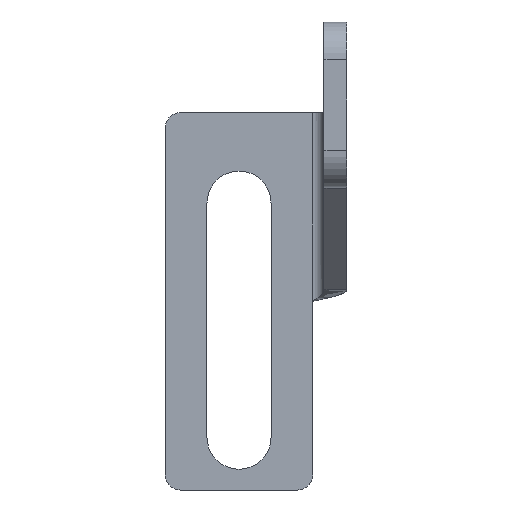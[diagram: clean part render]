
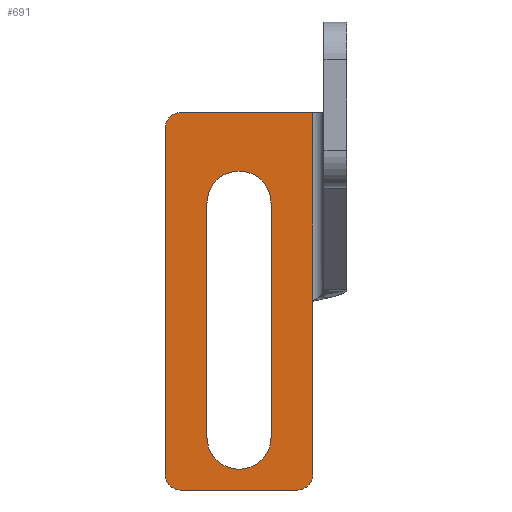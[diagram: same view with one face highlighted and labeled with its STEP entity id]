
A CAD part, left-side view. The second image highlights one B-rep face of the part: STEP entity #691.
In plain terms, the highlighted planar face has unit normal (-1, 0, 0).
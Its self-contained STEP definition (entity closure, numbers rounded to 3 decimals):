
#221 = DIRECTION ( 'NONE',  ( 0., 1., 0. ) ) ;
#230 = CIRCLE ( 'NONE', #235, 4.25 ) ;
#231 = VECTOR ( 'NONE', #237, 1000. ) ;
#232 = DIRECTION ( 'NONE',  ( 0., 1., 0. ) ) ;
#233 = DIRECTION ( 'NONE',  ( 1., 0., 0. ) ) ;
#234 = CARTESIAN_POINT ( 'NONE',  ( -25.75, 14.25, -55. ) ) ;
#235 = AXIS2_PLACEMENT_3D ( 'NONE', #234, #233, #232 ) ;
#237 = DIRECTION ( 'NONE',  ( 0., 1., 0. ) ) ;
#263 = CARTESIAN_POINT ( 'NONE',  ( -25.75, 4.5, -37. ) ) ;
#279 = CARTESIAN_POINT ( 'NONE',  ( -25.75, 24., -12. ) ) ;
#280 = LINE ( 'NONE', #279, #231 ) ;
#389 = DIRECTION ( 'NONE',  ( 0., 1., 0. ) ) ;
#390 = VECTOR ( 'NONE', #389, 1000. ) ;
#391 = CARTESIAN_POINT ( 'NONE',  ( -25.75, 4.5, -62. ) ) ;
#392 = LINE ( 'NONE', #391, #390 ) ;
#402 = CARTESIAN_POINT ( 'NONE',  ( -25.75, 22., -62. ) ) ;
#495 = LINE ( 'NONE', #515, #514 ) ;
#514 = VECTOR ( 'NONE', #524, 1000. ) ;
#515 = CARTESIAN_POINT ( 'NONE',  ( -25.75, 4.5, -12. ) ) ;
#517 = CARTESIAN_POINT ( 'NONE',  ( -25.75, 22., -12. ) ) ;
#524 = DIRECTION ( 'NONE',  ( 0., 0., -1. ) ) ;
#526 = PLANE ( 'NONE',  #530 ) ;
#527 = DIRECTION ( 'NONE',  ( 1., 0., 0. ) ) ;
#528 = CARTESIAN_POINT ( 'NONE',  ( -25.75, 3., -37. ) ) ;
#530 = AXIS2_PLACEMENT_3D ( 'NONE', #528, #527, #221 ) ;
#532 = FACE_BOUND ( 'NONE', #787, .T. ) ;
#535 = CARTESIAN_POINT ( 'NONE',  ( -25.75, 18.5, -24. ) ) ;
#536 = FACE_OUTER_BOUND ( 'NONE', #904, .T. ) ;
#559 = VERTEX_POINT ( 'NONE', #263 ) ;
#568 = ORIENTED_EDGE ( 'NONE', *, *, #786, .T. ) ;
#569 = EDGE_CURVE ( 'NONE', #785, #813, #230, .T. ) ;
#571 = EDGE_CURVE ( 'NONE', #784, #578, #392, .T. ) ;
#578 = VERTEX_POINT ( 'NONE', #402 ) ;
#579 = EDGE_CURVE ( 'NONE', #709, #641, #280, .T. ) ;
#628 = EDGE_CURVE ( 'NONE', #709, #559, #495, .T. ) ;
#641 = VERTEX_POINT ( 'NONE', #517 ) ;
#650 = CARTESIAN_POINT ( 'NONE',  ( -25.75, 4.5, -12. ) ) ;
#691 = ADVANCED_FACE ( 'NONE', ( #532, #536 ), #526, .F. ) ;
#692 = VERTEX_POINT ( 'NONE', #535 ) ;
#709 = VERTEX_POINT ( 'NONE', #650 ) ;
#764 = ORIENTED_EDGE ( 'NONE', *, *, #808, .T. ) ;
#765 = VERTEX_POINT ( 'NONE', #1063 ) ;
#766 = EDGE_CURVE ( 'NONE', #813, #692, #1058, .T. ) ;
#784 = VERTEX_POINT ( 'NONE', #1087 ) ;
#785 = VERTEX_POINT ( 'NONE', #1086 ) ;
#786 = EDGE_CURVE ( 'NONE', #765, #785, #1081, .T. ) ;
#787 = EDGE_LOOP ( 'NONE', ( #789, #788, #568, #812 ) ) ;
#788 = ORIENTED_EDGE ( 'NONE', *, *, #811, .T. ) ;
#789 = ORIENTED_EDGE ( 'NONE', *, *, #766, .T. ) ;
#794 = ORIENTED_EDGE ( 'NONE', *, *, #628, .F. ) ;
#797 = EDGE_CURVE ( 'NONE', #641, #810, #1077, .T. ) ;
#798 = ORIENTED_EDGE ( 'NONE', *, *, #579, .T. ) ;
#799 = EDGE_CURVE ( 'NONE', #810, #804, #1125, .T. ) ;
#800 = EDGE_CURVE ( 'NONE', #804, #578, #1127, .T. ) ;
#801 = ORIENTED_EDGE ( 'NONE', *, *, #800, .T. ) ;
#802 = ORIENTED_EDGE ( 'NONE', *, *, #571, .F. ) ;
#803 = ORIENTED_EDGE ( 'NONE', *, *, #806, .T. ) ;
#804 = VERTEX_POINT ( 'NONE', #1126 ) ;
#805 = VERTEX_POINT ( 'NONE', #1121 ) ;
#806 = EDGE_CURVE ( 'NONE', #784, #805, #1116, .T. ) ;
#807 = ORIENTED_EDGE ( 'NONE', *, *, #797, .T. ) ;
#808 = EDGE_CURVE ( 'NONE', #805, #559, #1110, .T. ) ;
#809 = ORIENTED_EDGE ( 'NONE', *, *, #799, .T. ) ;
#810 = VERTEX_POINT ( 'NONE', #1111 ) ;
#811 = EDGE_CURVE ( 'NONE', #692, #765, #1112, .T. ) ;
#812 = ORIENTED_EDGE ( 'NONE', *, *, #569, .T. ) ;
#813 = VERTEX_POINT ( 'NONE', #1104 ) ;
#904 = EDGE_LOOP ( 'NONE', ( #802, #803, #764, #794, #798, #807, #809, #801 ) ) ;
#1056 = DIRECTION ( 'NONE',  ( 0., 0., 1. ) ) ;
#1057 = VECTOR ( 'NONE', #1056, 1000. ) ;
#1058 = LINE ( 'NONE', #1062, #1057 ) ;
#1062 = CARTESIAN_POINT ( 'NONE',  ( -25.75, 18.5, -37. ) ) ;
#1063 = CARTESIAN_POINT ( 'NONE',  ( -25.75, 10., -24. ) ) ;
#1071 = AXIS2_PLACEMENT_3D ( 'NONE', #1072, #1119, #1118 ) ;
#1072 = CARTESIAN_POINT ( 'NONE',  ( -25.75, 22., -60. ) ) ;
#1077 = CIRCLE ( 'NONE', #1083, 2. ) ;
#1078 = DIRECTION ( 'NONE',  ( 0., 0., -1. ) ) ;
#1079 = VECTOR ( 'NONE', #1078, 1000. ) ;
#1080 = CARTESIAN_POINT ( 'NONE',  ( -25.75, 10., -37. ) ) ;
#1081 = LINE ( 'NONE', #1080, #1079 ) ;
#1082 = CARTESIAN_POINT ( 'NONE',  ( -25.75, 24., -37. ) ) ;
#1083 = AXIS2_PLACEMENT_3D ( 'NONE', #1130, #1129, #1128 ) ;
#1086 = CARTESIAN_POINT ( 'NONE',  ( -25.75, 10., -55. ) ) ;
#1087 = CARTESIAN_POINT ( 'NONE',  ( -25.75, 6.5, -62. ) ) ;
#1092 = CARTESIAN_POINT ( 'NONE',  ( -25.75, 6.5, -60. ) ) ;
#1100 = DIRECTION ( 'NONE',  ( 0., 1., 0. ) ) ;
#1101 = DIRECTION ( 'NONE',  ( 1., 0., 0. ) ) ;
#1104 = CARTESIAN_POINT ( 'NONE',  ( -25.75, 18.5, -55. ) ) ;
#1106 = CARTESIAN_POINT ( 'NONE',  ( -25.75, 14.25, -24. ) ) ;
#1108 = DIRECTION ( 'NONE',  ( 0., 0., 1. ) ) ;
#1109 = VECTOR ( 'NONE', #1108, 1000. ) ;
#1110 = LINE ( 'NONE', #1120, #1109 ) ;
#1111 = CARTESIAN_POINT ( 'NONE',  ( -25.75, 24., -14. ) ) ;
#1112 = CIRCLE ( 'NONE', #1122, 4.25 ) ;
#1113 = DIRECTION ( 'NONE',  ( 0., 1., 0. ) ) ;
#1114 = DIRECTION ( 'NONE',  ( -1., 0., 0. ) ) ;
#1115 = AXIS2_PLACEMENT_3D ( 'NONE', #1092, #1114, #1113 ) ;
#1116 = CIRCLE ( 'NONE', #1115, 2. ) ;
#1118 = DIRECTION ( 'NONE',  ( 0., 1., 0. ) ) ;
#1119 = DIRECTION ( 'NONE',  ( -1., 0., 0. ) ) ;
#1120 = CARTESIAN_POINT ( 'NONE',  ( -25.75, 4.5, -62. ) ) ;
#1121 = CARTESIAN_POINT ( 'NONE',  ( -25.75, 4.5, -60. ) ) ;
#1122 = AXIS2_PLACEMENT_3D ( 'NONE', #1106, #1101, #1100 ) ;
#1123 = DIRECTION ( 'NONE',  ( 0., 0., -1. ) ) ;
#1124 = VECTOR ( 'NONE', #1123, 1000. ) ;
#1125 = LINE ( 'NONE', #1082, #1124 ) ;
#1126 = CARTESIAN_POINT ( 'NONE',  ( -25.75, 24., -60. ) ) ;
#1127 = CIRCLE ( 'NONE', #1071, 2. ) ;
#1128 = DIRECTION ( 'NONE',  ( 0., 1., 0. ) ) ;
#1129 = DIRECTION ( 'NONE',  ( -1., 0., 0. ) ) ;
#1130 = CARTESIAN_POINT ( 'NONE',  ( -25.75, 22., -14. ) ) ;
